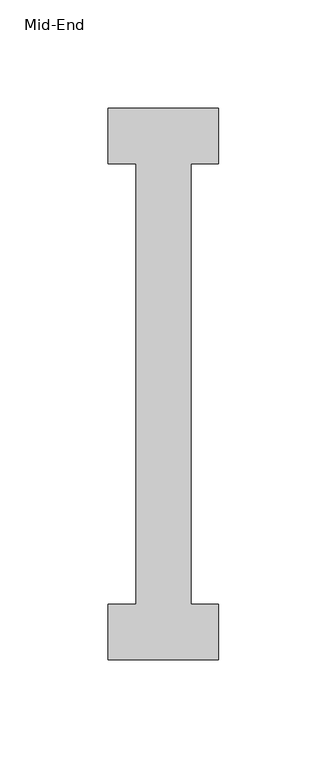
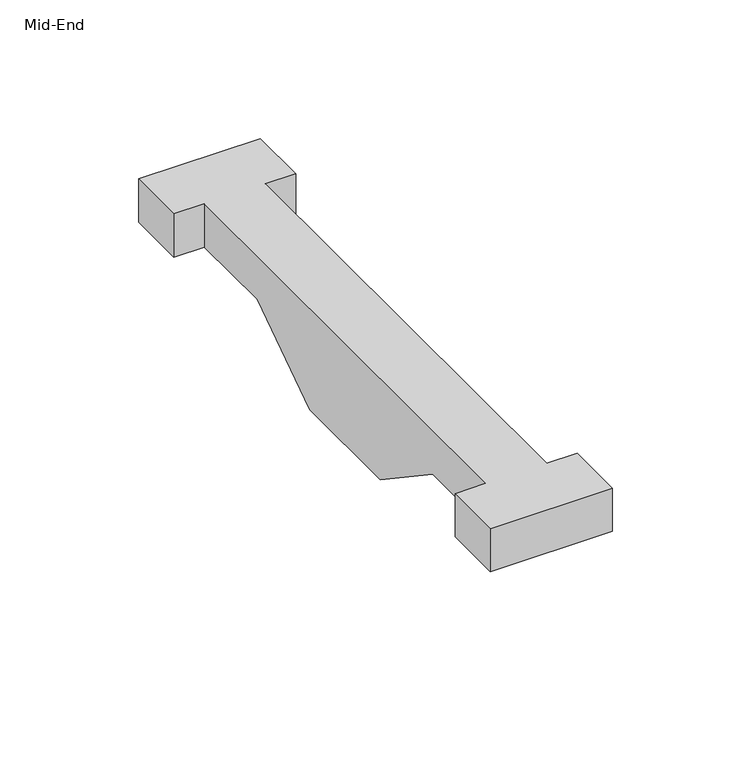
"""IFC4 building model written with IfcOpenShell, lengths in millimetres: furniture geometry, HermanMiller_ActionOffice_AO460-AO464_TransactionSurfaceSupport : Mid-End."""

from ifc_helpers import new_model, si_unit, origin, place, context, project, spatial, faceted_brep, source, transform, mapped, element, save


def mid_end_1fdd12aa(model_context):
    return source(origin(), model_context, "Body", "Brep", [
        faceted_brep([(1524.0, 117.475, 1149.3499985), (1524.0, 92.075, 1149.3499985), (1524.0, 92.075, 1168.4), (1524.0, 117.475, 1168.4), (1524.0, -136.525, 1168.4), (1524.0, -111.124997, 1168.4), (1524.0, -111.124997, 1149.3499985), (1524.0, -136.525, 1149.3499985), (1574.8, 117.475, 1149.3499985), (1574.8, 117.475, 1168.4), (1574.8, 92.075, 1168.4), (1574.8, 92.075, 1149.3499985), (1574.8, -136.525, 1168.4), (1574.8, -136.525, 1149.3499985), (1574.8, -111.124997, 1149.3499985), (1574.8, -111.124997, 1168.4), (1562.0999996, 92.075, 1149.3499985), (1562.0999996, 53.975, 1149.3499985), (1536.6999989, 53.975, 1149.3499985), (1536.6999989, 92.075, 1149.3499985), (1536.6999989, 92.075, 1168.4), (1562.0999996, 92.075, 1168.4), (1536.6999989, -111.124997, 1168.4), (1562.0999996, -111.124997, 1168.4), (1536.6999989, -111.124997, 1149.3499985), (1562.0999996, -111.124997, 1149.3499985), (1536.6999989, -73.024997, 1149.3499985), (1562.0999996, -73.024997, 1149.3499985), (1536.6999989, 15.875, 1123.95), (1536.6999989, -34.9250015, 1123.95), (1562.0999996, -34.9250015, 1123.95), (1562.0999996, 15.875, 1123.95)], [[[0, 1, 2, 3]], [[4, 5, 6, 7]], [[8, 9, 10, 11]], [[12, 13, 14, 15]], [[1, 0, 8, 11, 16, 17, 18, 19]], [[2, 1, 19, 20]], [[11, 10, 21, 16]], [[3, 2, 20, 22, 5, 4, 12, 15, 23, 21, 10, 9]], [[0, 3, 9, 8]], [[6, 5, 22, 24]], [[15, 14, 25, 23]], [[7, 6, 24, 26, 27, 25, 14, 13]], [[4, 7, 13, 12]], [[22, 20, 19, 18, 28, 29, 26, 24]], [[25, 27, 30, 31, 17, 16, 21, 23]], [[28, 18, 17, 31]], [[29, 28, 31, 30]], [[26, 29, 30, 27]]]),
    ])


if __name__ == "__main__":
    model = new_model("IFC4")
    model_context = context("Model", 3, world=origin())
    ifc_project = project(units=[si_unit("LENGTHUNIT", "METRE", prefix="MILLI")], contexts=[model_context])
    site = spatial("IfcSite", under=ifc_project)
    building = spatial("IfcBuilding", under=site)
    placement = place(None, origin())
    mid_end_shape = mid_end_1fdd12aa(model_context)
    element("IfcFurniture", 1, ObjectType="HermanMiller_ActionOffice_AO460-AO464_TransactionSurfaceSupport : Mid-End", at=placement, inside=building, context=model_context, shape_type="MappedRepresentation", body=[
        mapped(mid_end_shape, transform((0.0, 0.0, 0.0), x_axis=(1.0, 0.0, 0.0), y_axis=(0.0, 1.0, 0.0), z_axis=(0.0, 0.0, 1.0))),
    ])
    save(model, "model.ifc")
